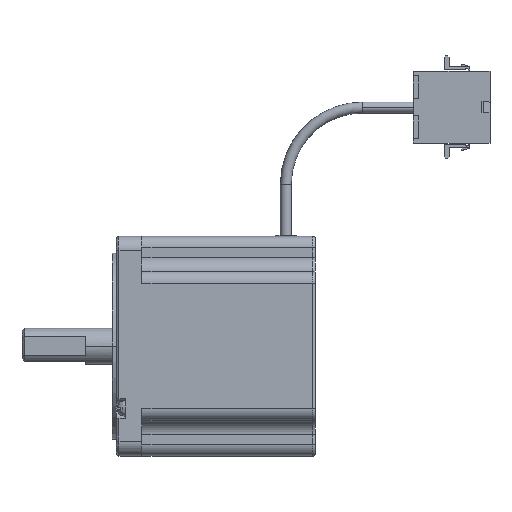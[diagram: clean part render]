
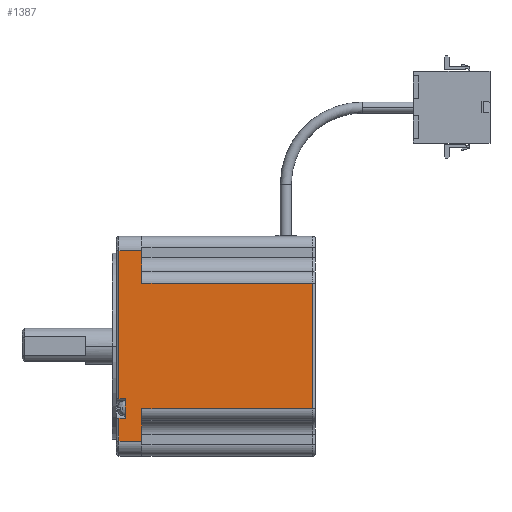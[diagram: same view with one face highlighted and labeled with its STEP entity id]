
A CAD part, top view. The second image highlights one B-rep face of the part: STEP entity #1387.
In plain terms, the highlighted planar face has unit normal (0, 0, 1) as drawn and (-1, 0, 0) by its records, which use the part's own axes.
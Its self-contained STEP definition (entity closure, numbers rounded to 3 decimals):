
#12 = DIRECTION ( 'NONE',  ( 0., 1., 0. ) ) ;
#38 = CARTESIAN_POINT ( 'NONE',  ( -119.958, -93.84, 0. ) ) ;
#43 = LINE ( 'NONE', #2762, #2199 ) ;
#307 = VERTEX_POINT ( 'NONE', #8010 ) ;
#378 = EDGE_CURVE ( 'NONE', #4269, #2175, #7165, .T. ) ;
#505 = VECTOR ( 'NONE', #7694, 1000. ) ;
#636 = CARTESIAN_POINT ( 'NONE',  ( -119.958, -19.24, 0. ) ) ;
#938 = VERTEX_POINT ( 'NONE', #4503 ) ;
#955 = CARTESIAN_POINT ( 'NONE',  ( -119.958, -99.54, -10. ) ) ;
#1071 = CARTESIAN_POINT ( 'NONE',  ( -119.958, -28.24, -3.5 ) ) ;
#1078 = DIRECTION ( 'NONE',  ( 0., -1., 0. ) ) ;
#1303 = LINE ( 'NONE', #955, #5454 ) ;
#1387 = ADVANCED_FACE ( 'NONE', ( #6218 ), #7435, .T. ) ;
#1440 = EDGE_CURVE ( 'NONE', #3073, #9004, #10088, .T. ) ;
#1507 = VECTOR ( 'NONE', #3896, 1000. ) ;
#1596 = CARTESIAN_POINT ( 'NONE',  ( -119.958, -19.24, -10. ) ) ;
#1914 = ORIENTED_EDGE ( 'NONE', *, *, #8887, .T. ) ;
#2101 = CARTESIAN_POINT ( 'NONE',  ( -119.958, -31.94, -77. ) ) ;
#2175 = VERTEX_POINT ( 'NONE', #8025 ) ;
#2176 = VECTOR ( 'NONE', #6229, 1000. ) ;
#2199 = VECTOR ( 'NONE', #2868, 1000. ) ;
#2339 = CARTESIAN_POINT ( 'NONE',  ( -119.958, -28.24, -1. ) ) ;
#2364 = DIRECTION ( 'NONE',  ( 0., 0., 1. ) ) ;
#2712 = DIRECTION ( 'NONE',  ( 0., 0., 1. ) ) ;
#2713 = ORIENTED_EDGE ( 'NONE', *, *, #7819, .T. ) ;
#2725 = EDGE_CURVE ( 'NONE', #9004, #8801, #8364, .T. ) ;
#2762 = CARTESIAN_POINT ( 'NONE',  ( -119.958, -99.54, -1. ) ) ;
#2868 = DIRECTION ( 'NONE',  ( 0., 1., 0. ) ) ;
#2960 = DIRECTION ( 'NONE',  ( -1., 0., 0. ) ) ;
#3042 = LINE ( 'NONE', #3888, #8969 ) ;
#3073 = VERTEX_POINT ( 'NONE', #9479 ) ;
#3226 = CARTESIAN_POINT ( 'NONE',  ( -119.958, -99.54, 0. ) ) ;
#3331 = DIRECTION ( 'NONE',  ( 0., 0., -1. ) ) ;
#3376 = CARTESIAN_POINT ( 'NONE',  ( -119.958, -35.84, -1. ) ) ;
#3612 = CARTESIAN_POINT ( 'NONE',  ( -119.958, -93.84, -1. ) ) ;
#3659 = ORIENTED_EDGE ( 'NONE', *, *, #5535, .T. ) ;
#3888 = CARTESIAN_POINT ( 'NONE',  ( -119.958, -99.54, -10. ) ) ;
#3896 = DIRECTION ( 'NONE',  ( 0., 1., 0. ) ) ;
#3968 = VECTOR ( 'NONE', #7983, 1000. ) ;
#4003 = DIRECTION ( 'NONE',  ( 0., 0., 1. ) ) ;
#4085 = ORIENTED_EDGE ( 'NONE', *, *, #1440, .T. ) ;
#4130 = CARTESIAN_POINT ( 'NONE',  ( -119.958, -81.14, -77. ) ) ;
#4150 = CARTESIAN_POINT ( 'NONE',  ( -119.958, -99.54, -3.5 ) ) ;
#4154 = VERTEX_POINT ( 'NONE', #3612 ) ;
#4199 = VECTOR ( 'NONE', #3331, 1000. ) ;
#4269 = VERTEX_POINT ( 'NONE', #6138 ) ;
#4503 = CARTESIAN_POINT ( 'NONE',  ( -119.958, -93.84, -10. ) ) ;
#4806 = CARTESIAN_POINT ( 'NONE',  ( -119.958, -31.94, -10. ) ) ;
#5182 = LINE ( 'NONE', #636, #505 ) ;
#5396 = VERTEX_POINT ( 'NONE', #3376 ) ;
#5410 = LINE ( 'NONE', #6227, #7250 ) ;
#5422 = EDGE_CURVE ( 'NONE', #4154, #5396, #43, .T. ) ;
#5454 = VECTOR ( 'NONE', #1078, 1000. ) ;
#5535 = EDGE_CURVE ( 'NONE', #2175, #938, #1303, .T. ) ;
#5582 = ORIENTED_EDGE ( 'NONE', *, *, #2725, .T. ) ;
#5907 = VERTEX_POINT ( 'NONE', #1596 ) ;
#5951 = EDGE_LOOP ( 'NONE', ( #8975, #10015, #8319, #3659, #1914, #8483, #8731, #4085, #5582, #8511, #6568, #2713 ) ) ;
#6138 = CARTESIAN_POINT ( 'NONE',  ( -119.958, -81.14, -77. ) ) ;
#6218 = FACE_OUTER_BOUND ( 'NONE', #5951, .T. ) ;
#6221 = DIRECTION ( 'NONE',  ( 0., -1., 0. ) ) ;
#6227 = CARTESIAN_POINT ( 'NONE',  ( -119.958, -31.94, -10. ) ) ;
#6229 = DIRECTION ( 'NONE',  ( 0., 0., 1. ) ) ;
#6392 = CARTESIAN_POINT ( 'NONE',  ( -119.958, -35.84, 0. ) ) ;
#6568 = ORIENTED_EDGE ( 'NONE', *, *, #7179, .T. ) ;
#6793 = AXIS2_PLACEMENT_3D ( 'NONE', #3226, #2960, #2712 ) ;
#6911 = VECTOR ( 'NONE', #7198, 1000. ) ;
#7058 = CARTESIAN_POINT ( 'NONE',  ( -119.958, -28.24, 0. ) ) ;
#7165 = LINE ( 'NONE', #7177, #6911 ) ;
#7177 = CARTESIAN_POINT ( 'NONE',  ( -119.958, -81.14, 0. ) ) ;
#7179 = EDGE_CURVE ( 'NONE', #307, #5907, #5182, .T. ) ;
#7198 = DIRECTION ( 'NONE',  ( 0., 0., 1. ) ) ;
#7250 = VECTOR ( 'NONE', #2364, 1000. ) ;
#7435 = PLANE ( 'NONE',  #6793 ) ;
#7694 = DIRECTION ( 'NONE',  ( 0., 0., -1. ) ) ;
#7819 = EDGE_CURVE ( 'NONE', #5907, #8360, #3042, .T. ) ;
#7983 = DIRECTION ( 'NONE',  ( 0., -1., 0. ) ) ;
#8010 = CARTESIAN_POINT ( 'NONE',  ( -119.958, -19.24, -1. ) ) ;
#8025 = CARTESIAN_POINT ( 'NONE',  ( -119.958, -81.14, -10. ) ) ;
#8089 = LINE ( 'NONE', #6392, #4199 ) ;
#8319 = ORIENTED_EDGE ( 'NONE', *, *, #378, .T. ) ;
#8360 = VERTEX_POINT ( 'NONE', #4806 ) ;
#8364 = LINE ( 'NONE', #7058, #2176 ) ;
#8483 = ORIENTED_EDGE ( 'NONE', *, *, #5422, .T. ) ;
#8511 = ORIENTED_EDGE ( 'NONE', *, *, #9635, .T. ) ;
#8536 = CARTESIAN_POINT ( 'NONE',  ( -119.958, -99.54, -1. ) ) ;
#8585 = VERTEX_POINT ( 'NONE', #2101 ) ;
#8731 = ORIENTED_EDGE ( 'NONE', *, *, #9763, .T. ) ;
#8801 = VERTEX_POINT ( 'NONE', #2339 ) ;
#8887 = EDGE_CURVE ( 'NONE', #938, #4154, #9561, .T. ) ;
#8969 = VECTOR ( 'NONE', #6221, 1000. ) ;
#8975 = ORIENTED_EDGE ( 'NONE', *, *, #9652, .F. ) ;
#9004 = VERTEX_POINT ( 'NONE', #1071 ) ;
#9321 = VECTOR ( 'NONE', #4003, 1000. ) ;
#9479 = CARTESIAN_POINT ( 'NONE',  ( -119.958, -35.84, -3.5 ) ) ;
#9523 = LINE ( 'NONE', #8536, #1507 ) ;
#9561 = LINE ( 'NONE', #38, #9321 ) ;
#9635 = EDGE_CURVE ( 'NONE', #8801, #307, #9523, .T. ) ;
#9652 = EDGE_CURVE ( 'NONE', #8585, #8360, #5410, .T. ) ;
#9763 = EDGE_CURVE ( 'NONE', #5396, #3073, #8089, .T. ) ;
#9773 = EDGE_CURVE ( 'NONE', #8585, #4269, #9880, .T. ) ;
#9844 = VECTOR ( 'NONE', #12, 1000. ) ;
#9880 = LINE ( 'NONE', #4130, #3968 ) ;
#10015 = ORIENTED_EDGE ( 'NONE', *, *, #9773, .T. ) ;
#10088 = LINE ( 'NONE', #4150, #9844 ) ;
